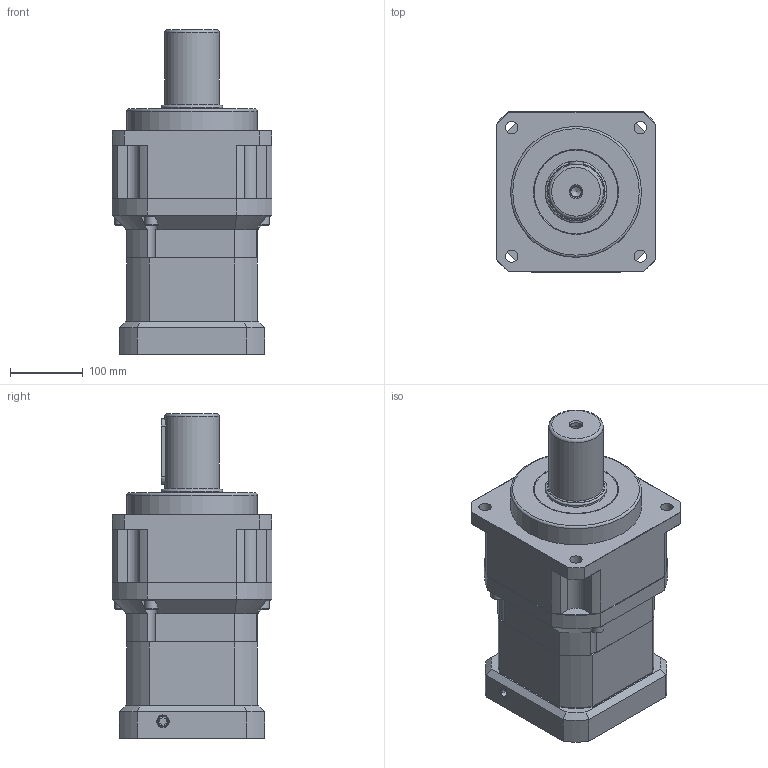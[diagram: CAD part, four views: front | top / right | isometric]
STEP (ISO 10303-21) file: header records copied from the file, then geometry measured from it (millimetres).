
FILE_DESCRIPTION((''),'2;1');
FILE_NAME('C:\Work\감속기 카다로그 도면\ATG Reducer(홈페이지)\KSB\KSB-220-2.stp','2014-07-22T15:16:36',('young'),(''),'Autodesk Inventor 2012','Autodesk Inventor 2012','');
FILE_SCHEMA(('AUTOMOTIVE_DESIGN { 1 0 10303 214 1 1 1 1 }'));
Length unit declared in the file: millimetre
Products named in the file (1): KSB-220-2
Bounding box: 220 x 220 x 446.5 mm (x, y, z)
Volume: 10448577.4 mm3; surface area: 797497.4 mm2
Topology: 21 solids, 23 shells, 724 faces, 1729 edges, 1101 vertices
Faces by surface type: plane 371, cylinder 226, cone 90, bspline 19, torus 18
Full cylindrical faces by diameter (mm): 4.5 x4, 8 x4, 8.5 x4, 8.6 x1, 10 x5, 10.2 x12, 11 x1, 12 x4, 13 x8, 14 x1, 14.5 x2, 16 x6, 16.709 x2, 17 x4, 18 x4, 19 x4, 51 x1, 54.9 x1, 58.2 x1, 59.8 x1, 60 x1, 75 x1, 80 x2, 84.8 x1, 85 x1, 90 x1, 115 x2, 155 x1, 165 x2, 180 x1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
Entity records: 22671 total; most frequent: CARTESIAN_POINT 6185, DIRECTION 3440, ORIENTED_EDGE 3068, EDGE_CURVE 1534, AXIS2_PLACEMENT_3D 1316, VERTEX_POINT 1062, EDGE_LOOP 974, VECTOR 808
